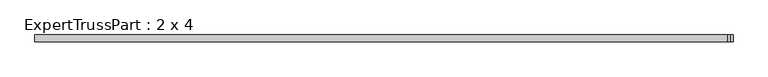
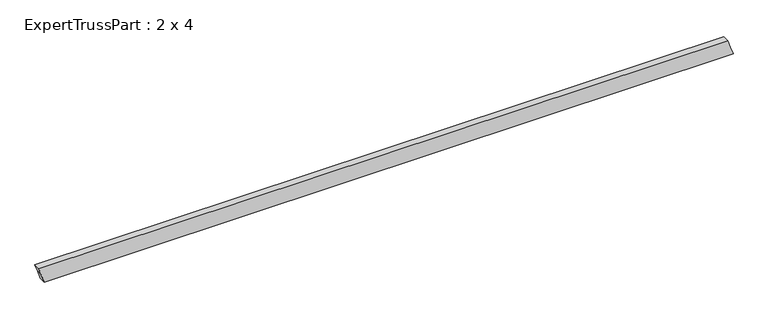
"""IFC4 building model written with IfcOpenShell, lengths in millimetres: beam geometry, ExpertTrussPart : 2 x 4."""

import ifcopenshell
import ifcopenshell.guid

model = None  # the IFC model being written
_history = None  # IfcOwnerHistory: only IFC2X3 demands one
_inside = {}  # id of a spatial element -> (the spatial element, [elements in it])
_under = {}  # id of a project, library or spatial element -> (it, [spatial elements below it])
_declared = {}  # id of a project -> (the project, [libraries it declares])
_typed = {}  # id of a type object -> (the type object, [elements of that type])
_made_of = {}  # id of a material, layer set ... -> (it, [elements and type objects made of it])


def new_model(schema):
    """Start an empty IFC model of exactly this schema.

    Asked for "IFC4X3", IfcOpenShell would pick the latest addendum, in which some entities
    have other attributes; the version numbers below select the first issue.
    IFC2X3 requires an IfcOwnerHistory on every rooted entity: one is made here for all.
    """
    global model, _history
    if schema == "IFC4X3":
        model = ifcopenshell.file(schema_version=(4, 3, 0, 0))
    else:
        model = ifcopenshell.file(schema=schema)
    _inside.clear()
    _under.clear()
    _declared.clear()
    _typed.clear()
    _made_of.clear()
    _history = None
    if model.schema == "IFC2X3":
        org = make("IfcOrganization", Name="unknown")
        user = make(
            "IfcPersonAndOrganization",
            ThePerson=make("IfcPerson", FamilyName="unknown"),
            TheOrganization=org,
        )
        app = make(
            "IfcApplication",
            ApplicationDeveloper=org,
            Version="unknown",
            ApplicationFullName="unknown",
            ApplicationIdentifier="unknown",
        )
        _history = make(
            "IfcOwnerHistory",
            OwningUser=user,
            OwningApplication=app,
            ChangeAction="ADDED",
            CreationDate=0,
        )
    return model


def make(cls, **values):
    """One entity of the class cls with the attributes given. An attribute that is None is left unset."""
    return model.create_entity(
        cls, **{name: value for name, value in values.items() if value is not None}
    )


def rooted(cls, **values):
    """An entity with a GlobalId (a new one), such as an element, a storey or a relation."""
    return make(cls, GlobalId=ifcopenshell.guid.new(), OwnerHistory=_history, **values)


def si_unit(unit_type, name, prefix=None):
    """IfcSIUnit, for example si_unit("LENGTHUNIT", "METRE", prefix="MILLI")."""
    return make("IfcSIUnit", UnitType=unit_type, Prefix=prefix, Name=name)


def assignment(units):
    """IfcUnitAssignment: the units of a project."""
    return None if units is None else make("IfcUnitAssignment", Units=units)


def point(xyz):
    """IfcCartesianPoint."""
    return None if xyz is None else make("IfcCartesianPoint", Coordinates=xyz)


def direction(xyz):
    """IfcDirection."""
    return None if xyz is None else make("IfcDirection", DirectionRatios=xyz)


def frame(location, z_axis=None, x_axis=None):
    """IfcAxis2Placement3D, a coordinate frame: its origin and axes. An axis left out is left unset."""
    return make(
        "IfcAxis2Placement3D",
        Location=point(location),
        Axis=direction(z_axis),
        RefDirection=direction(x_axis),
    )


def origin():
    """The frame at (0, 0, 0) with its axes left unset."""
    return frame((0.0, 0.0, 0.0))


def place(relative_to, where):
    """IfcLocalPlacement: puts the frame where relative to a parent placement (None: the world)."""
    return make(
        "IfcLocalPlacement", PlacementRelTo=relative_to, RelativePlacement=where
    )


def context(
    kind, dimensions, precision=None, world=None, true_north=None, identifier=None
):
    """IfcGeometricRepresentationContext, for example the 3D "Model" context."""
    return make(
        "IfcGeometricRepresentationContext",
        ContextIdentifier=identifier,
        ContextType=kind,
        CoordinateSpaceDimension=dimensions,
        Precision=precision,
        WorldCoordinateSystem=world,
        TrueNorth=true_north,
    )


def project(units=None, contexts=None):
    """IfcProject with its units and contexts."""
    return rooted(
        "IfcProject",
        Name="project",
        RepresentationContexts=contexts,
        UnitsInContext=assignment(units),
    )


def spatial(cls, under=None, at=None, **own):
    """A site, building, storey or space (cls), placed at a placement, below another one or the project."""
    s = rooted(cls, ObjectPlacement=at, **own)
    if under is not None:
        _under.setdefault(under.id(), (under, []))[1].append(s)
    return s


def polyline(points):
    """IfcPolyline through the points."""
    return make("IfcPolyline", Points=[point(p) for p in points])


def outline(outer, holes=None, kind="AREA"):
    """IfcArbitraryClosedProfileDef: a profile drawn as a closed curve; with holes, ...WithVoids."""
    if holes is None:
        return make("IfcArbitraryClosedProfileDef", ProfileType=kind, OuterCurve=outer)
    return make(
        "IfcArbitraryProfileDefWithVoids",
        ProfileType=kind,
        OuterCurve=outer,
        InnerCurves=holes,
    )


def extrude(swept, where, along, depth):
    """IfcExtrudedAreaSolid: the profile swept, set in the frame where, extruded along a direction by depth."""
    return make(
        "IfcExtrudedAreaSolid",
        SweptArea=swept,
        Position=where,
        ExtrudedDirection=direction(along),
        Depth=depth,
    )


def shape(context_of_items, identifier, shape_type, items):
    """IfcShapeRepresentation: the items that make up one representation, for example the "Body"."""
    return make(
        "IfcShapeRepresentation",
        ContextOfItems=context_of_items,
        RepresentationIdentifier=identifier,
        RepresentationType=shape_type,
        Items=items,
    )


def source(mapping_origin, context_of_items, identifier, shape_type, items):
    """IfcRepresentationMap: a shape defined once, which mapped items show again and again."""
    return make(
        "IfcRepresentationMap",
        MappingOrigin=mapping_origin,
        MappedRepresentation=shape(context_of_items, identifier, shape_type, items),
    )


def transform(
    local_origin,
    x_axis=None,
    y_axis=None,
    z_axis=None,
    scale=None,
    scale2=None,
    scale3=None,
    uniform=True,
):
    """IfcCartesianTransformationOperator3D, or its non-uniform kind. x_axis, y_axis, z_axis: its Axis1, 2, 3."""
    if uniform:
        return make(
            "IfcCartesianTransformationOperator3D",
            Axis1=direction(x_axis),
            Axis2=direction(y_axis),
            LocalOrigin=point(local_origin),
            Scale=scale,
            Axis3=direction(z_axis),
        )
    return make(
        "IfcCartesianTransformationOperator3DnonUniform",
        Axis1=direction(x_axis),
        Axis2=direction(y_axis),
        LocalOrigin=point(local_origin),
        Scale=scale,
        Axis3=direction(z_axis),
        Scale2=scale2,
        Scale3=scale3,
    )


def mapped(mapping_source, mapping_target):
    """IfcMappedItem: shows the shape of a source again, moved by a transform."""
    return make(
        "IfcMappedItem", MappingSource=mapping_source, MappingTarget=mapping_target
    )


def made_of(thing, what):
    """Note that an element or type object is made of a material, layer set ...; save() writes the relation."""
    if what is not None:
        _made_of.setdefault(what.id(), (what, []))[1].append(thing)
    return thing


def element(
    cls,
    number,
    at=None,
    inside=None,
    cuts=None,
    type_object=None,
    material=None,
    context=None,
    identifier="Body",
    shape_type=None,
    held_by="IfcProductDefinitionShape",
    body=None,
    shapes=None,
    **own,
):
    """One element of the class cls, such as IfcWall. Its Tag is "e" and its number.

    at: its placement. inside: the storey or other place that contains it. cuts: it is an
    opening in that element (IfcRelVoidsElement). A single representation is given by context,
    identifier, shape_type and body (its items); several are given by shapes. held_by: the class
    of the entity that holds the representations. save() writes the other relations.
    """
    e = rooted(cls, Tag="e%d" % number, ObjectPlacement=at, **own)
    if body is not None:
        shapes = [shape(context, identifier, shape_type, body)]
    if shapes is not None:
        e.Representation = make(held_by, Representations=shapes)
    if inside is not None:
        _inside.setdefault(inside.id(), (inside, []))[1].append(e)
    if cuts is not None:
        rooted(
            "IfcRelVoidsElement", RelatingBuildingElement=cuts, RelatedOpeningElement=e
        )
    if type_object is not None:
        _typed.setdefault(type_object.id(), (type_object, []))[1].append(e)
    return made_of(e, material)


def aggregate(whole, parts):
    """IfcRelAggregates: a whole, such as a stair, and the parts it consists of."""
    return rooted("IfcRelAggregates", RelatingObject=whole, RelatedObjects=parts)


def save(model, path):
    """Write the relations noted so far, then the file.

    IfcRelAggregates (storeys below a building ...), IfcRelContainedInSpatialStructure (elements
    in a storey), IfcRelDefinesByType, IfcRelAssociatesMaterial and IfcRelDeclares: one each for
    every whole, place, type object, material and project.
    """
    for whole, parts in _under.values():
        aggregate(whole, parts)
    for where, things in _inside.values():
        rooted(
            "IfcRelContainedInSpatialStructure",
            RelatedElements=things,
            RelatingStructure=where,
        )
    for kind, things in _typed.values():
        rooted("IfcRelDefinesByType", RelatedObjects=things, RelatingType=kind)
    for what, things in _made_of.values():
        rooted("IfcRelAssociatesMaterial", RelatedObjects=things, RelatingMaterial=what)
    for by, libraries in _declared.values():
        rooted("IfcRelDeclares", RelatingContext=by, RelatedDefinitions=libraries)
    model.write(path)


def experttrusspart_2_x_4_906307f6(model_context):
    return source(origin(), model_context, "Body", "SweptSolid", [
        extrude(outline(polyline([(88.9, -1931.5742708), (44.45, -1917.0662847), (0.0, -1902.5582986), (0.0, 1931.5742708), (44.45, 1917.0662847), (88.9, 1902.5582986), (88.9, -1931.5742708)])), frame((0.0, -19.05, 0.0), z_axis=(0.0, 1.0, 0.0), x_axis=(0.0, 0.0, 1.0)), (0.0, 0.0, 1.0), 38.1),
    ])


if __name__ == "__main__":
    model = new_model("IFC4")
    model_context = context("Model", 3, world=origin())
    ifc_project = project(units=[si_unit("LENGTHUNIT", "METRE", prefix="MILLI")], contexts=[model_context])
    site = spatial("IfcSite", under=ifc_project)
    building = spatial("IfcBuilding", under=site)
    placement = place(None, origin())
    experttrusspart_2_x_4_shape = experttrusspart_2_x_4_906307f6(model_context)
    element("IfcBeam", 1, ObjectType="ExpertTrussPart : 2 x 4", at=placement, inside=building, context=model_context, shape_type="MappedRepresentation", body=[
        mapped(experttrusspart_2_x_4_shape, transform((0.0, 0.0, 0.0), x_axis=(1.0, 0.0, 0.0), y_axis=(0.0, 1.0, 0.0), z_axis=(0.0, 0.0, 1.0))),
    ])
    save(model, "model.ifc")
